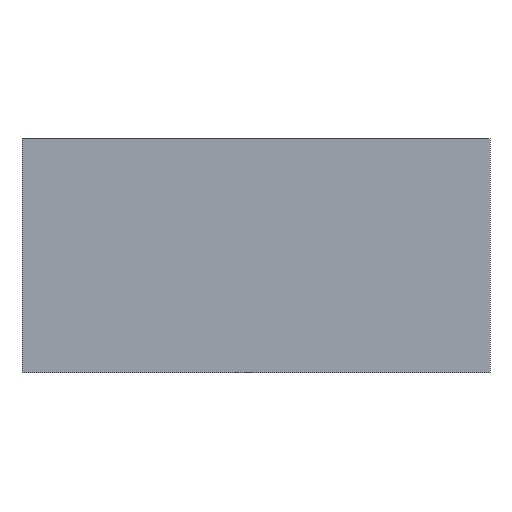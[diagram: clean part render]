
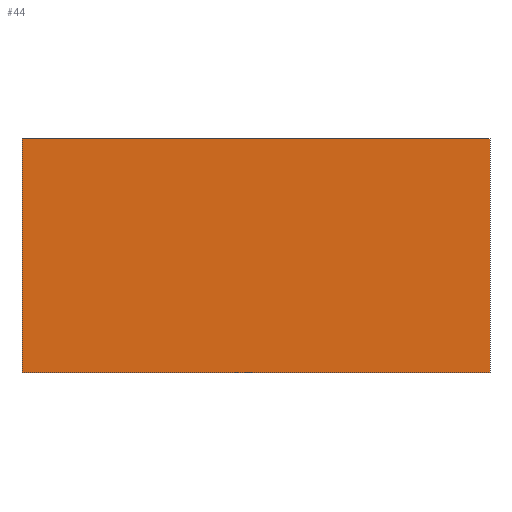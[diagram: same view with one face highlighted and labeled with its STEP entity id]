
A CAD part, front view. The second image highlights one B-rep face of the part: STEP entity #44.
In plain terms, the highlighted planar face has unit normal (0, -1, 0).
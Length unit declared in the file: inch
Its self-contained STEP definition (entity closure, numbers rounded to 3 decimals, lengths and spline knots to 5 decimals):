
#5 = CARTESIAN_POINT ( 'NONE',  ( -12., 0., -6. ) ) ;
#7 = CARTESIAN_POINT ( 'NONE',  ( -12., 0., -6. ) ) ;
#13 = EDGE_LOOP ( 'NONE', ( #68, #127, #115, #71 ) ) ;
#14 = VERTEX_POINT ( 'NONE', #21 ) ;
#21 = CARTESIAN_POINT ( 'NONE',  ( 12., 0., 6. ) ) ;
#24 = CARTESIAN_POINT ( 'NONE',  ( -12., 0., 6. ) ) ;
#30 = DIRECTION ( 'NONE',  ( 0., 1., 0. ) ) ;
#32 = CARTESIAN_POINT ( 'NONE',  ( -12., 0., 6. ) ) ;
#34 = DIRECTION ( 'NONE',  ( 0., 0., -1. ) ) ;
#35 = FACE_OUTER_BOUND ( 'NONE', #13, .T. ) ;
#41 = LINE ( 'NONE', #161, #132 ) ;
#44 = ADVANCED_FACE ( 'NONE', ( #35 ), #74, .F. ) ;
#59 = LINE ( 'NONE', #171, #177 ) ;
#61 = DIRECTION ( 'NONE',  ( -1., 0., 0. ) ) ;
#65 = AXIS2_PLACEMENT_3D ( 'NONE', #158, #30, #92 ) ;
#67 = EDGE_CURVE ( 'NONE', #119, #14, #184, .T. ) ;
#68 = ORIENTED_EDGE ( 'NONE', *, *, #102, .F. ) ;
#71 = ORIENTED_EDGE ( 'NONE', *, *, #109, .F. ) ;
#74 = PLANE ( 'NONE',  #65 ) ;
#89 = VECTOR ( 'NONE', #61, 39.37008 ) ;
#92 = DIRECTION ( 'NONE',  ( 0., 0., 1. ) ) ;
#95 = CARTESIAN_POINT ( 'NONE',  ( 12., 0., -6. ) ) ;
#100 = DIRECTION ( 'NONE',  ( 0., 0., 1. ) ) ;
#102 = EDGE_CURVE ( 'NONE', #14, #104, #59, .T. ) ;
#104 = VERTEX_POINT ( 'NONE', #95 ) ;
#109 = EDGE_CURVE ( 'NONE', #104, #187, #156, .T. ) ;
#112 = DIRECTION ( 'NONE',  ( 1., 0., 0. ) ) ;
#115 = ORIENTED_EDGE ( 'NONE', *, *, #162, .F. ) ;
#119 = VERTEX_POINT ( 'NONE', #24 ) ;
#127 = ORIENTED_EDGE ( 'NONE', *, *, #67, .F. ) ;
#132 = VECTOR ( 'NONE', #100, 39.37008 ) ;
#156 = LINE ( 'NONE', #5, #89 ) ;
#158 = CARTESIAN_POINT ( 'NONE',  ( 0., 0., 0. ) ) ;
#161 = CARTESIAN_POINT ( 'NONE',  ( -12., 0., -6. ) ) ;
#162 = EDGE_CURVE ( 'NONE', #187, #119, #41, .T. ) ;
#169 = VECTOR ( 'NONE', #112, 39.37008 ) ;
#171 = CARTESIAN_POINT ( 'NONE',  ( 12., 0., -6. ) ) ;
#177 = VECTOR ( 'NONE', #34, 39.37008 ) ;
#184 = LINE ( 'NONE', #32, #169 ) ;
#187 = VERTEX_POINT ( 'NONE', #7 ) ;
